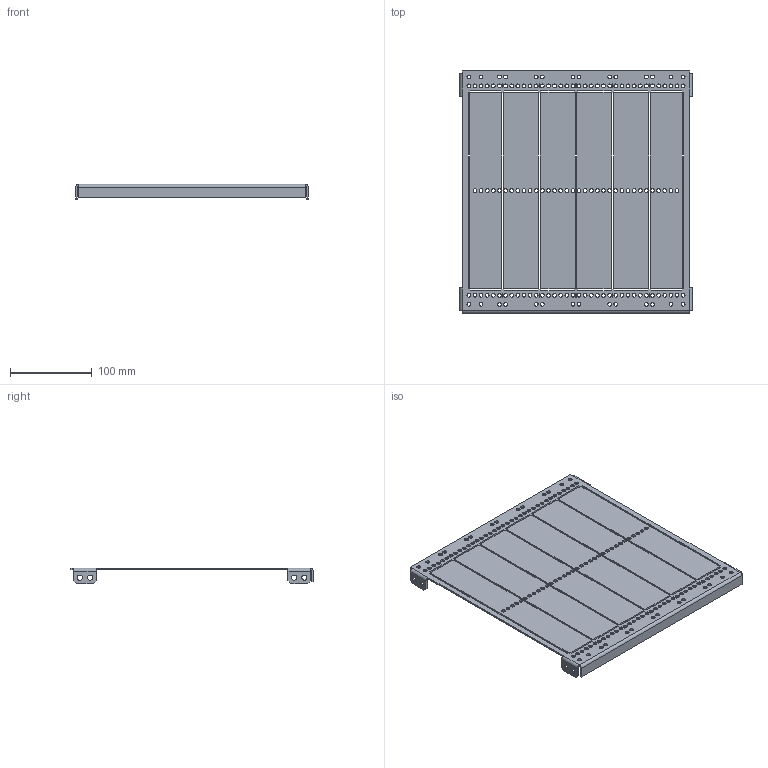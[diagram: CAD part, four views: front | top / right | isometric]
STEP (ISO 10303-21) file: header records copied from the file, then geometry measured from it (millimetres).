
FILE_DESCRIPTION(('STEP AP203'), '1');
FILE_NAME('Ïàíåëü áîêîâàÿ ôóíêöèîíàëüíîãî áëîêà Â300õÃ400 ìì OptiBox M (2 øò) 419069 ÊÝÀÇ', '', ('UNSPECIFIED'), ('UNSPECIFIED'), 'C3D Converter', 'C3D Toolkit', '');
FILE_SCHEMA(('CONFIG_CONTROL_DESIGN'));
Length unit declared in the file: millimetre
Bounding box: 285 x 297 x 19 mm (x, y, z)
Volume: 163280.5 mm3; surface area: 179117.6 mm2
Topology: 1 solids, 1 shells, 346 faces, 992 edges, 648 vertices
Faces by surface type: plane 194, cylinder 152
Full cylindrical faces by diameter (mm): 4.6 x134, 6.3 x8
Entity records: 11362 total; most frequent: DIRECTION 1848, CARTESIAN_POINT 1845, ORIENTED_EDGE 1700, EDGE_CURVE 850, EDGE_LOOP 844, AXIS2_PLACEMENT_3D 651, VERTEX_POINT 648, FACE_BOUND 560
